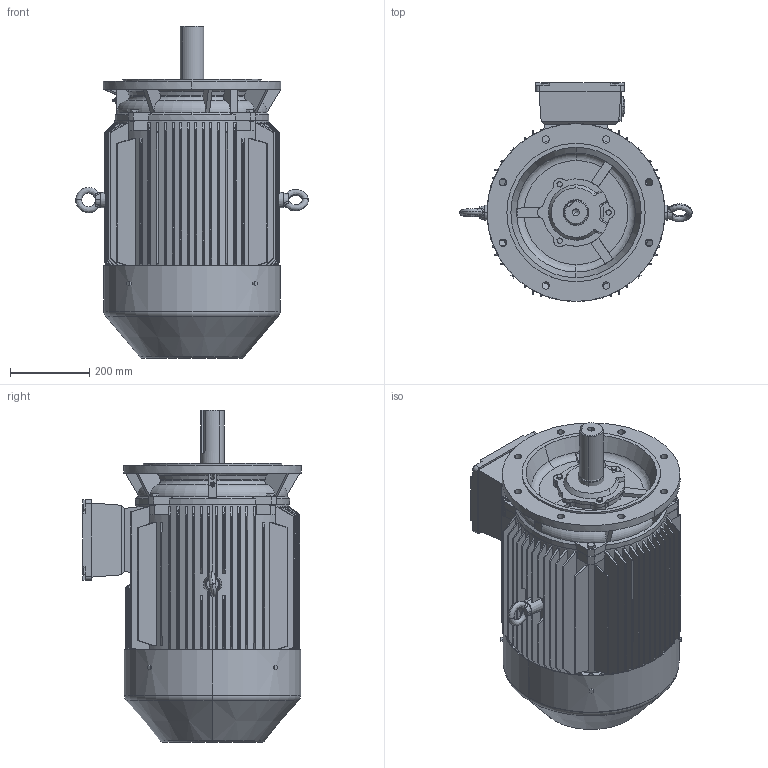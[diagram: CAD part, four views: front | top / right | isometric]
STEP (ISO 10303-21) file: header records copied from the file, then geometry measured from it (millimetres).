
FILE_DESCRIPTION (( 'STEP AP203' ), '1' );
FILE_NAME ('TE3-225M-4,6,8 V1.STEP', '2019-12-23T02:13:20', ( '微软用户' ), ( '微软中国' ), 'SwSTEP 2.0', 'SolidWorks 2012', '' );
FILE_SCHEMA (( 'CONFIG_CONTROL_DESIGN' ));
Length unit declared in the file: millimetre
Products named in the file (14): TE3-225M-4,6,8 V1; 蚐戚; Y2-200~225 P24諉盄碟; hexagon head bolts-full thread gb_GB_FASTENER_BOLT_STBAB A M8X16-N; 8EJ.353.10054GX200~225P24諉盄碟裔; 8EJ.354.594Y2-200~225P24諉盄碟釱; eyebolts gb_GB_FASTENER_SCREWS_FRS M16-N; YX3-225 瑞欶; YE3-225-4,6,8（轴伸）; hex head bolts-full thread grade c gb_GB_FASTENER_BOLT_HHBFTC M12X25-N; hex head bolts-full thread grade c gb_GB_FASTENER_BOLT_HHBFTC M8X25-N; Y2-225-4,6,8轴承外盖（轴伸端）; Y2-225-4,6,8芧埽傷裔017.00082; Y2-225M V1儂釱
Assembly tree (22 placements, depth 3):
  TE3-225M-4,6,8 V1
    Y2-225M V1儂釱
    Y2-225-4,6,8芧埽傷裔017.00082
    Y2-225-4,6,8轴承外盖（轴伸端）
    hex head bolts-full thread grade c gb_GB_FASTENER_BOLT_HHBFTC M8X25-N  x3
    hex head bolts-full thread grade c gb_GB_FASTENER_BOLT_HHBFTC M12X25-N  x4
    YE3-225-4,6,8（轴伸）
    YX3-225 瑞欶
    eyebolts gb_GB_FASTENER_SCREWS_FRS M16-N  x2
    Y2-200~225 P24諉盄碟
      8EJ.354.594Y2-200~225P24諉盄碟釱
      8EJ.353.10054GX200~225P24諉盄碟裔
      hexagon head bolts-full thread gb_GB_FASTENER_BOLT_STBAB A M8X16-N  x4
    蚐戚
Bounding box: 588.4 x 554 x 840 mm (x, y, z)
Volume: 61639626.7 mm3; surface area: 3751219.1 mm2
Topology: 22 solids, 22 shells, 2924 faces, 7214 edges, 4726 vertices
Faces by surface type: plane 2084, cylinder 359, cone 243, bspline 146, torus 86, sphere 6
Entity records: 95231 total; most frequent: CARTESIAN_POINT 30393, ORIENTED_EDGE 13394, DIRECTION 11826, EDGE_CURVE 6697, LINE 4950, VECTOR 4950, VERTEX_POINT 4414, AXIS2_PLACEMENT_3D 3438
